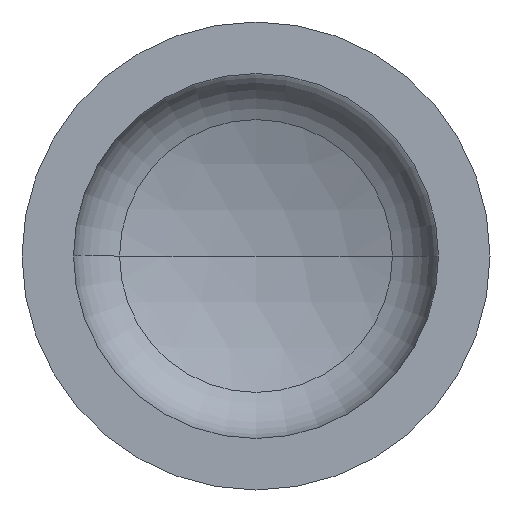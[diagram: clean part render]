
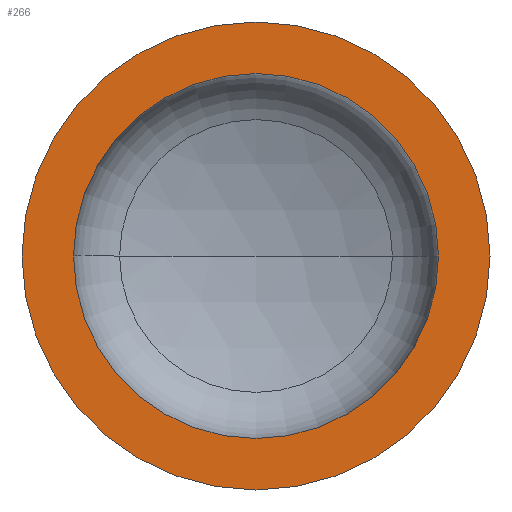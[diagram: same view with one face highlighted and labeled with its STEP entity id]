
A CAD part, front view. The second image highlights one B-rep face of the part: STEP entity #266.
In plain terms, the highlighted planar face has unit normal (0, -1, 0).
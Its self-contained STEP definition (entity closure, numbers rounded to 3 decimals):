
#6 = AXIS2_PLACEMENT_3D ( 'NONE', #205, #202, #203 ) ;
#8 = AXIS2_PLACEMENT_3D ( 'NONE', #160, #178, #179 ) ;
#12 = AXIS2_PLACEMENT_3D ( 'NONE', #295, #293, #276 ) ;
#23 = DIRECTION ( 'NONE',  ( -1., 0., 0. ) ) ;
#31 = EDGE_LOOP ( 'NONE', ( #44, #148 ) ) ;
#38 = AXIS2_PLACEMENT_3D ( 'NONE', #227, #150, #23 ) ;
#44 = ORIENTED_EDGE ( 'NONE', *, *, #258, .T. ) ;
#49 = EDGE_CURVE ( 'NONE', #70, #115, #175, .T. ) ;
#50 = EDGE_CURVE ( 'NONE', #111, #206, #372, .T. ) ;
#67 = EDGE_CURVE ( 'NONE', #206, #111, #184, .T. ) ;
#70 = VERTEX_POINT ( 'NONE', #278 ) ;
#82 = EDGE_LOOP ( 'NONE', ( #384, #123 ) ) ;
#103 = CARTESIAN_POINT ( 'NONE',  ( -390., 0., 0. ) ) ;
#111 = VERTEX_POINT ( 'NONE', #177 ) ;
#115 = VERTEX_POINT ( 'NONE', #360 ) ;
#123 = ORIENTED_EDGE ( 'NONE', *, *, #67, .F. ) ;
#137 = CIRCLE ( 'NONE', #364, 500. ) ;
#148 = ORIENTED_EDGE ( 'NONE', *, *, #49, .T. ) ;
#150 = DIRECTION ( 'NONE',  ( 0., 1., 0. ) ) ;
#152 = DIRECTION ( 'NONE',  ( 1., 0., 0. ) ) ;
#154 = DIRECTION ( 'NONE',  ( 0., -1., 0. ) ) ;
#160 = CARTESIAN_POINT ( 'NONE',  ( 0., 0., 0. ) ) ;
#175 = CIRCLE ( 'NONE', #12, 500. ) ;
#177 = CARTESIAN_POINT ( 'NONE',  ( 390., 0., 0. ) ) ;
#178 = DIRECTION ( 'NONE',  ( 0., -1., 0. ) ) ;
#179 = DIRECTION ( 'NONE',  ( 1., 0., 0. ) ) ;
#184 = CIRCLE ( 'NONE', #6, 390. ) ;
#202 = DIRECTION ( 'NONE',  ( 0., -1., 0. ) ) ;
#203 = DIRECTION ( 'NONE',  ( 1., 0., 0. ) ) ;
#205 = CARTESIAN_POINT ( 'NONE',  ( 0., 0., 0. ) ) ;
#206 = VERTEX_POINT ( 'NONE', #103 ) ;
#226 = CARTESIAN_POINT ( 'NONE',  ( 0., 0., 0. ) ) ;
#227 = CARTESIAN_POINT ( 'NONE',  ( -500., 0., 0. ) ) ;
#234 = PLANE ( 'NONE',  #38 ) ;
#258 = EDGE_CURVE ( 'NONE', #115, #70, #137, .T. ) ;
#266 = ADVANCED_FACE ( 'NONE', ( #277, #408 ), #234, .F. ) ;
#276 = DIRECTION ( 'NONE',  ( 1., 0., 0. ) ) ;
#277 = FACE_BOUND ( 'NONE', #82, .T. ) ;
#278 = CARTESIAN_POINT ( 'NONE',  ( -500., 0., 0. ) ) ;
#293 = DIRECTION ( 'NONE',  ( 0., -1., 0. ) ) ;
#295 = CARTESIAN_POINT ( 'NONE',  ( 0., 0., 0. ) ) ;
#360 = CARTESIAN_POINT ( 'NONE',  ( 500., 0., 0. ) ) ;
#364 = AXIS2_PLACEMENT_3D ( 'NONE', #226, #154, #152 ) ;
#372 = CIRCLE ( 'NONE', #8, 390. ) ;
#384 = ORIENTED_EDGE ( 'NONE', *, *, #50, .F. ) ;
#408 = FACE_OUTER_BOUND ( 'NONE', #31, .T. ) ;
